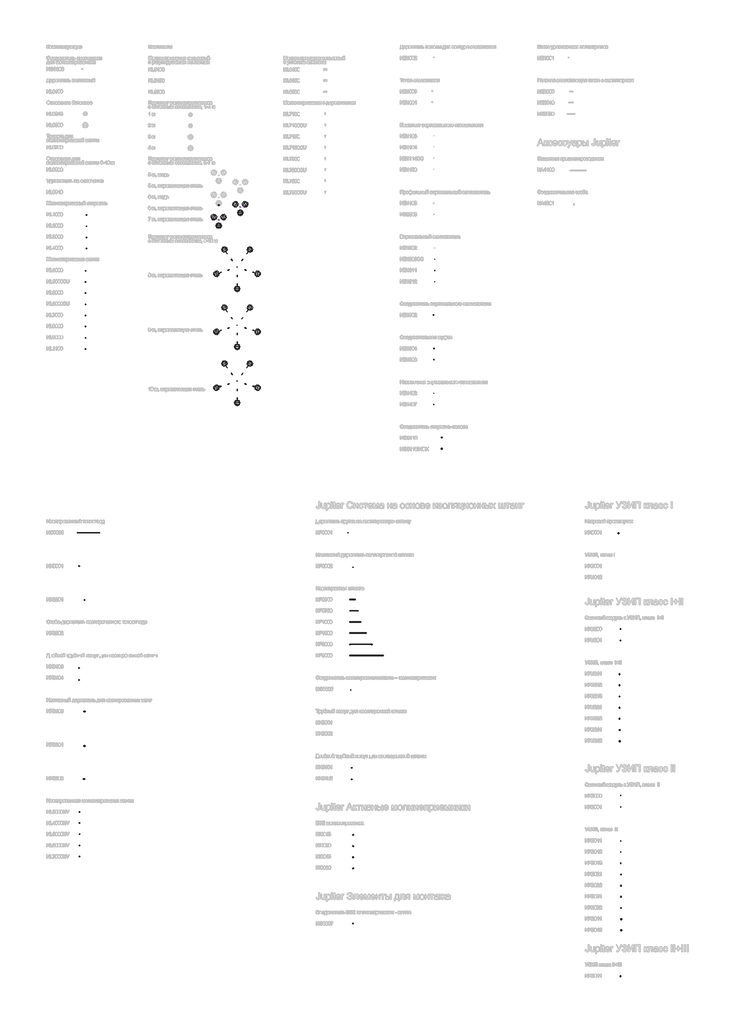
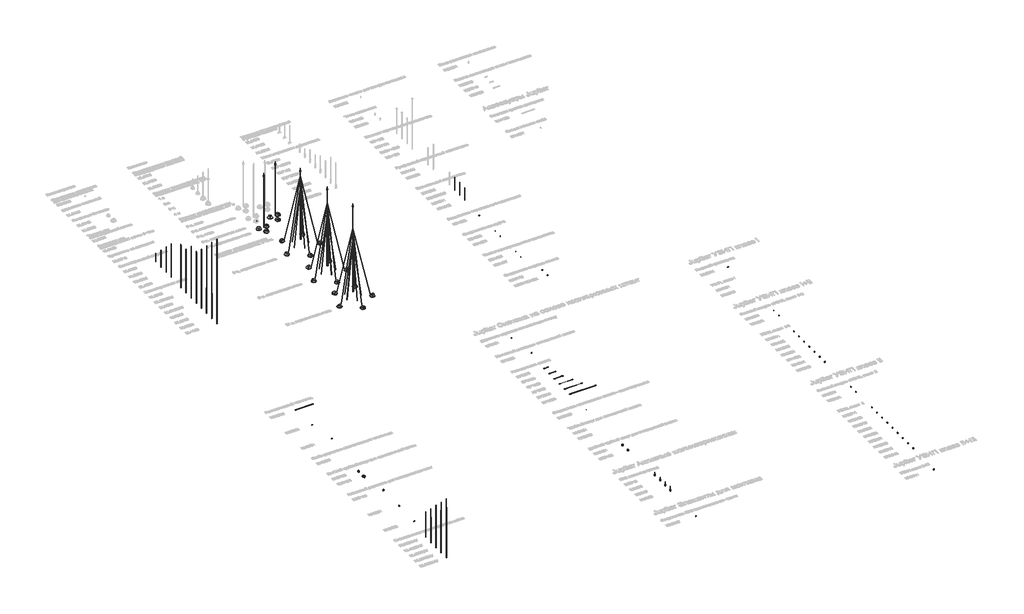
# One storey, part 1 of 124: 116 proxies, 1 duct fitting, 1 duct segment.
"""IFC4 building model written with IfcOpenShell, lengths in millimetres."""

from ifc_helpers import new_model, si_unit, point, frame, frame_2d, origin, place, context, project, spatial, circle_curve, trimmed, segment, composite_curve, outline, extrude, transform, mapped, element, save
from components import security_devices_05d823bf, security_devices_0aeedfa1, security_devices_a8f7f402, security_devices_c6e7fee2, security_devices_559b2867, security_devices_0043915d, security_devices_6ea39299, security_devices_825c0fe0, security_devices_16bc7795, security_devices_1e134b05, security_devices_2c1e61c4, security_devices_edb8f459, security_devices_3444e8e4, security_devices_97b46f4d, security_devices_ea8fab0d, security_devices_bb690567, security_devices_41d0c0da, security_devices_88e37f12, security_devices_a315e19a, security_devices_9b5765ba, security_devices_b758fb0a, security_devices_906a7fbe, security_devices_8f3e5d56, security_devices_b226a513, security_devices_eeaf92e3, security_devices_a4980a0c, security_devices_d693c095, security_devices_0e7c5410, security_devices_e70f869e, security_devices_90d430a2, security_devices_a29eabd2, security_devices_7bfe0d6e, security_devices_0df7b225, security_devices_4151b5aa, security_devices_ee13a812, security_devices_3b14cfa0, security_devices_d66b258b, security_devices_bb59ca7d, security_devices_c9c6f2a6, security_devices_e6ee3e28, security_devices_08c832ad, security_devices_84849d59, security_devices_fc7a873b, security_devices_9e177451, security_devices_01c4e3ec, security_devices_d06509e6, security_devices_df28b7d4, security_devices_2842b777, nk2201_a44ecc95, nx0001_94aa2309, nx1200_8756095d, nx1211_2f3ccb29, nx1221_e5589962, nx1241_89681e73, nx1241_6f42e53b, nx2031_2e469d20, duct_fitting_a82781f4

model = new_model("IFC4")

# Units and contexts
model_context = context("Model", 3, world=origin())
ifc_project = project(units=[si_unit("LENGTHUNIT", "METRE", prefix="MILLI")], contexts=[model_context])

# Site, building, storey
site = spatial("IfcSite", under=ifc_project)
building = spatial("IfcBuilding", under=site)
storey = spatial("IfcBuildingStorey", under=building, Name="Этаж 01", Elevation=0.0)

# Proxies
placement = place(None, origin())
security_devices_shape = security_devices_05d823bf(model_context)
element("IfcBuildingElementProxy", 1, Name="КНС_ХомутДвойнойТрубныйДляИзолированнойМачты_DKC : NK3103_Нержавеющая сталь_D150", ObjectType="КНС_ХомутДвойнойТрубныйДляИзолированнойМачты_DKC : NK3103_Нержавеющая сталь_D150", at=placement, inside=storey, context=model_context, shape_type="MappedRepresentation", body=[
    mapped(security_devices_shape, transform((4173.0680129, -105467.272805, 0.0), x_axis=(1.0, 0.0, 0.0), y_axis=(0.0, 1.0, 0.0), z_axis=(0.0, 0.0, 1.0))),
])
security_devices_2_shape = security_devices_0aeedfa1(model_context)
element("IfcBuildingElementProxy", 2, Name="КНС_ХомутДвойнойТрубныйДляИзолированнойМачты_DKC : NK3104_Нержавеющая сталь_D500", ObjectType="КНС_ХомутДвойнойТрубныйДляИзолированнойМачты_DKC : NK3104_Нержавеющая сталь_D500", at=placement, inside=storey, context=model_context, shape_type="MappedRepresentation", body=[
    mapped(security_devices_2_shape, transform((4173.0680129, -106467.272805, 0.0), x_axis=(1.0, 0.0, 0.0), y_axis=(0.0, 1.0, 0.0), z_axis=(0.0, 0.0, 1.0))),
])
security_devices_3_shape = security_devices_a8f7f402(model_context)
element("IfcBuildingElementProxy", 3, Name="КНС_ДержательНастенныйДляИзолированныхМачт_DKC : NK3105_Горячеоцинкованная сталь", ObjectType="КНС_ДержательНастенныйДляИзолированныхМачт_DKC : NK3105_Горячеоцинкованная сталь", at=placement, inside=storey, context=model_context, shape_type="MappedRepresentation", body=[
    mapped(security_devices_3_shape, transform((4655.8541382, -109434.5814792, 0.0), x_axis=(1.0, 0.0, 0.0), y_axis=(0.0, 1.0, 0.0), z_axis=(0.0, 0.0, 1.0))),
])
security_devices_4_shape = security_devices_c6e7fee2(model_context)
element("IfcBuildingElementProxy", 4, Name="КНС_КольцоСоединительноеДляИзолированногоТокоотвода_DKC : NK3201_Алюминий", ObjectType="КНС_КольцоСоединительноеДляИзолированногоТокоотвода_DKC : NK3201_Алюминий", at=placement, inside=storey, context=model_context, shape_type="MappedRepresentation", body=[
    mapped(security_devices_4_shape, transform((4655.8541382, -112514.5814792, 0.0), x_axis=(1.0, 0.0, 0.0), y_axis=(0.0, 1.0, 0.0), z_axis=(0.0, 0.0, 1.0))),
])
security_devices_5_shape = security_devices_559b2867(model_context)
element("IfcBuildingElementProxy", 5, Name="КНС_ДержательНаружногоИзолированногоТокоотводаДляИзолированнойМолниеприемнойМачты_DKC : NK3202_Нержавеющая сталь", ObjectType="КНС_ДержательНаружногоИзолированногоТокоотводаДляИзолированнойМолниеприемнойМачты_DKC : NK3202_Нержавеющая сталь", at=placement, inside=storey, context=model_context, shape_type="MappedRepresentation", body=[
    mapped(security_devices_5_shape, transform((4610.705612, -115478.5314635, 0.0), x_axis=(1.0, 0.0, 0.0), y_axis=(0.0, 1.0, 0.0), z_axis=(0.0, 0.0, 1.0))),
])
security_devices_6_shape = security_devices_0043915d(model_context)
element("IfcBuildingElementProxy", 6, Name="КНС_МачтаИзолированнаяМолниеприемная_DKC : NL3000HV_Нержавеющая сталь_3м", ObjectType="КНС_МачтаИзолированнаяМолниеприемная_DKC : NL3000HV_Нержавеющая сталь_3м", at=placement, inside=storey, context=model_context, shape_type="MappedRepresentation", body=[
    mapped(security_devices_6_shape, transform((4220.3947261, -118408.0491719, 0.0), x_axis=(1.0, 0.0, 0.0), y_axis=(0.0, 1.0, 0.0), z_axis=(0.0, 0.0, 1.0))),
])
security_devices_7_shape = security_devices_6ea39299(model_context)
element("IfcBuildingElementProxy", 7, Name="КНС_МачтаИзолированнаяМолниеприемная_DKC : NL4000HV_Нержавеющая сталь_4м", ObjectType="КНС_МачтаИзолированнаяМолниеприемная_DKC : NL4000HV_Нержавеющая сталь_4м", at=placement, inside=storey, context=model_context, shape_type="MappedRepresentation", body=[
    mapped(security_devices_7_shape, transform((4220.3947261, -119408.0491719, 0.0), x_axis=(1.0, 0.0, 0.0), y_axis=(0.0, 1.0, 0.0), z_axis=(0.0, 0.0, 1.0))),
])
security_devices_8_shape = security_devices_825c0fe0(model_context)
element("IfcBuildingElementProxy", 8, Name="КНС_МачтаИзолированнаяМолниеприемная_DKC : NL5000HV_Нержавеющая сталь_5м", ObjectType="КНС_МачтаИзолированнаяМолниеприемная_DKC : NL5000HV_Нержавеющая сталь_5м", at=placement, inside=storey, context=model_context, shape_type="MappedRepresentation", body=[
    mapped(security_devices_8_shape, transform((4220.3947261, -120408.0491719, 0.0), x_axis=(1.0, 0.0, 0.0), y_axis=(0.0, 1.0, 0.0), z_axis=(0.0, 0.0, 1.0))),
])
security_devices_9_shape = security_devices_16bc7795(model_context)
element("IfcBuildingElementProxy", 9, Name="КНС_МачтаИзолированнаяМолниеприемная_DKC : NL6000HV_Нержавеющая сталь_6м", ObjectType="КНС_МачтаИзолированнаяМолниеприемная_DKC : NL6000HV_Нержавеющая сталь_6м", at=placement, inside=storey, context=model_context, shape_type="MappedRepresentation", body=[
    mapped(security_devices_9_shape, transform((4220.3947261, -121408.0491719, 0.0), x_axis=(1.0, 0.0, 0.0), y_axis=(0.0, 1.0, 0.0), z_axis=(0.0, 0.0, 1.0))),
])
security_devices_10_shape = security_devices_1e134b05(model_context)
element("IfcBuildingElementProxy", 10, Name="КНС_МачтаИзолированнаяМолниеприемная_DKC : NL7000HV_Нержавеющая сталь_7м", ObjectType="КНС_МачтаИзолированнаяМолниеприемная_DKC : NL7000HV_Нержавеющая сталь_7м", at=placement, inside=storey, context=model_context, shape_type="MappedRepresentation", body=[
    mapped(security_devices_10_shape, transform((4220.3947261, -122408.0491719, 0.0), x_axis=(1.0, 0.0, 0.0), y_axis=(0.0, 1.0, 0.0), z_axis=(0.0, 0.0, 1.0))),
])
security_devices_11_shape = security_devices_2c1e61c4(model_context)
element("IfcBuildingElementProxy", 11, Name="КНС_ДержательПруткаНаИзоляционнуюШтангу_DKC : NF0001_Гальванически оцинкованнная сталь", ObjectType="КНС_ДержательПруткаНаИзоляционнуюШтангу_DKC : NF0001_Гальванически оцинкованнная сталь", at=placement, inside=storey, context=model_context, shape_type="MappedRepresentation", body=[
    mapped(security_devices_11_shape, transform((28262.7660106, -93430.5049317, 0.0), x_axis=(1.0, 0.0, 0.0), y_axis=(0.0, 1.0, 0.0), z_axis=(0.0, 0.0, 1.0))),
])
security_devices_12_shape = security_devices_edb8f459(model_context)
element("IfcBuildingElementProxy", 12, Name="КНС_ДержательНастенныйИзоляционнойШтанги_DKC : NF0002_Гальванически оцинкованнная сталь", ObjectType="КНС_ДержательНастенныйИзоляционнойШтанги_DKC : NF0002_Гальванически оцинкованнная сталь", at=placement, inside=storey, context=model_context, shape_type="MappedRepresentation", body=[
    mapped(security_devices_12_shape, transform((28691.4894697, -96514.5814792, 0.0), x_axis=(1.0, 0.0, 0.0), y_axis=(0.0, 1.0, 0.0), z_axis=(0.0, 0.0, 1.0))),
])
security_devices_13_shape = security_devices_3444e8e4(model_context)
element("IfcBuildingElementProxy", 13, Name="КНС_ШтангаИзоляционная_DKC : NF0500_Стеклопластик_500 мм", ObjectType="КНС_ШтангаИзоляционная_DKC : NF0500_Стеклопластик_500 мм", at=placement, inside=storey, context=model_context, shape_type="MappedRepresentation", body=[
    mapped(security_devices_13_shape, transform((28400.0, -99414.5814792, 0.0), x_axis=(0.0, -1.0, 0.0), y_axis=(1.0, 0.0, 0.0), z_axis=(0.0, 0.0, 1.0))),
])
security_devices_14_shape = security_devices_97b46f4d(model_context)
element("IfcBuildingElementProxy", 14, Name="КНС_ШтангаИзоляционная_DKC : NF0750_Стеклопластик_750 мм", ObjectType="КНС_ШтангаИзоляционная_DKC : NF0750_Стеклопластик_750 мм", at=placement, inside=storey, context=model_context, shape_type="MappedRepresentation", body=[
    mapped(security_devices_14_shape, transform((28400.0, -100414.5814792, 0.0), x_axis=(0.0, -1.0, 0.0), y_axis=(1.0, 0.0, 0.0), z_axis=(0.0, 0.0, 1.0))),
])
security_devices_15_shape = security_devices_ea8fab0d(model_context)
element("IfcBuildingElementProxy", 15, Name="КНС_ШтангаИзоляционная_DKC : NF1000_Стеклопластик_1000 мм", ObjectType="КНС_ШтангаИзоляционная_DKC : NF1000_Стеклопластик_1000 мм", at=placement, inside=storey, context=model_context, shape_type="MappedRepresentation", body=[
    mapped(security_devices_15_shape, transform((28400.0, -101414.5814792, 0.0), x_axis=(0.0, -1.0, 0.0), y_axis=(1.0, 0.0, 0.0), z_axis=(0.0, 0.0, 1.0))),
])
security_devices_16_shape = security_devices_bb690567(model_context)
element("IfcBuildingElementProxy", 16, Name="КНС_ШтангаИзоляционная_DKC : NF1500_Стеклопластик_1500 мм", ObjectType="КНС_ШтангаИзоляционная_DKC : NF1500_Стеклопластик_1500 мм", at=placement, inside=storey, context=model_context, shape_type="MappedRepresentation", body=[
    mapped(security_devices_16_shape, transform((28400.0, -102414.5814792, 0.0), x_axis=(0.0, -1.0, 0.0), y_axis=(1.0, 0.0, 0.0), z_axis=(0.0, 0.0, 1.0))),
])
security_devices_17_shape = security_devices_41d0c0da(model_context)
element("IfcBuildingElementProxy", 17, Name="КНС_ШтангаИзоляционная_DKC : NF2000_Стеклопластик_2000 мм", ObjectType="КНС_ШтангаИзоляционная_DKC : NF2000_Стеклопластик_2000 мм", at=placement, inside=storey, context=model_context, shape_type="MappedRepresentation", body=[
    mapped(security_devices_17_shape, transform((28400.0, -103414.5814792, 0.0), x_axis=(0.0, -1.0, 0.0), y_axis=(1.0, 0.0, 0.0), z_axis=(0.0, 0.0, 1.0))),
])
security_devices_18_shape = security_devices_88e37f12(model_context)
element("IfcBuildingElementProxy", 18, Name="КНС_ШтангаИзоляционная_DKC : NF3000_Стеклопластик_3000 мм", ObjectType="КНС_ШтангаИзоляционная_DKC : NF3000_Стеклопластик_3000 мм", at=placement, inside=storey, context=model_context, shape_type="MappedRepresentation", body=[
    mapped(security_devices_18_shape, transform((28400.0, -104414.5814792, 0.0), x_axis=(0.0, -1.0, 0.0), y_axis=(1.0, 0.0, 0.0), z_axis=(0.0, 0.0, 1.0))),
])
security_devices_19_shape = security_devices_a315e19a(model_context)
element("IfcBuildingElementProxy", 19, Name="КНС_СоединительИзоляционнаяШтангаМолниеприемник_DKC : NG6608_Гальванически оцинкованнная сталь", ObjectType="КНС_СоединительИзоляционнаяШтангаМолниеприемник_DKC : NG6608_Гальванически оцинкованнная сталь", at=placement, inside=storey, context=model_context, shape_type="MappedRepresentation", body=[
    mapped(security_devices_19_shape, transform((28502.0105291, -107517.7042509, 0.0), x_axis=(1.0, 0.0, 0.0), y_axis=(0.0, 1.0, 0.0), z_axis=(0.0, 0.0, 1.0))),
])
security_devices_20_shape = security_devices_9b5765ba(model_context)
element("IfcBuildingElementProxy", 20, Name="КНС_ХомутДвойнойТрубныйДляИзолированнойШтанги_DKC : NK3101_Нержавеющая сталь_D150", ObjectType="КНС_ХомутДвойнойТрубныйДляИзолированнойШтанги_DKC : NK3101_Нержавеющая сталь_D150", at=placement, inside=storey, context=model_context, shape_type="MappedRepresentation", body=[
    mapped(security_devices_20_shape, transform((28579.0568623, -114418.4054196, 0.0), x_axis=(1.0, 0.0, 0.0), y_axis=(0.0, 1.0, 0.0), z_axis=(0.0, 0.0, 1.0))),
])
security_devices_21_shape = security_devices_b758fb0a(model_context)
element("IfcBuildingElementProxy", 21, Name="КНС_ESEМолниеприемник_DKC : NI0015_Нержавеющая сталь V4A", ObjectType="КНС_ESEМолниеприемник_DKC : NI0015_Нержавеющая сталь V4A", at=placement, inside=storey, context=model_context, shape_type="MappedRepresentation", body=[
    mapped(security_devices_21_shape, transform((28700.0, -120471.9803855, 0.0), x_axis=(1.0, 0.0, 0.0), y_axis=(0.0, 1.0, 0.0), z_axis=(0.0, 0.0, 1.0))),
])
element("IfcBuildingElementProxy", 22, Name="КНС_ESEМолниеприемник_DKC : NI0015_Нержавеющая сталь V4A", ObjectType="КНС_ESEМолниеприемник_DKC : NI0015_Нержавеющая сталь V4A", at=placement, inside=storey, context=model_context, shape_type="MappedRepresentation", body=[
    mapped(security_devices_21_shape, transform((18320.0078062, -69656.4144833, 8802.0), x_axis=(1.0, 0.0, 0.0), y_axis=(0.0, 1.0, 0.0), z_axis=(0.0, 0.0, 1.0))),
])
element("IfcBuildingElementProxy", 23, Name="КНС_ESEМолниеприемник_DKC : NI0015_Нержавеющая сталь V4A", ObjectType="КНС_ESEМолниеприемник_DKC : NI0015_Нержавеющая сталь V4A", at=placement, inside=storey, context=model_context, shape_type="MappedRepresentation", body=[
    mapped(security_devices_21_shape, transform((18320.0078062, -74856.4144833, 9802.0), x_axis=(1.0, 0.0, 0.0), y_axis=(0.0, 1.0, 0.0), z_axis=(0.0, 0.0, 1.0))),
])
element("IfcBuildingElementProxy", 24, Name="КНС_ESEМолниеприемник_DKC : NI0015_Нержавеющая сталь V4A", ObjectType="КНС_ESEМолниеприемник_DKC : NI0015_Нержавеющая сталь V4A", at=placement, inside=storey, context=model_context, shape_type="MappedRepresentation", body=[
    mapped(security_devices_21_shape, transform((18320.0078062, -79856.4144833, 10802.0), x_axis=(1.0, 0.0, 0.0), y_axis=(0.0, 1.0, 0.0), z_axis=(0.0, 0.0, 1.0))),
])
element("IfcBuildingElementProxy", 25, Name="КНС_ESEМолниеприемник_DKC : NI0015_Нержавеющая сталь V4A", ObjectType="КНС_ESEМолниеприемник_DKC : NI0015_Нержавеющая сталь V4A", at=placement, inside=storey, context=model_context, shape_type="MappedRepresentation", body=[
    mapped(security_devices_21_shape, transform((18612.132508, -64283.8125551, 6229.993014), x_axis=(1.0, 0.0, 0.0), y_axis=(0.0, 1.0, 0.0), z_axis=(0.0, 0.0, 1.0))),
])
element("IfcBuildingElementProxy", 26, Name="КНС_ESEМолниеприемник_DKC : NI0015_Нержавеющая сталь V4A", ObjectType="КНС_ESEМолниеприемник_DKC : NI0015_Нержавеющая сталь V4A", at=placement, inside=storey, context=model_context, shape_type="MappedRepresentation", body=[
    mapped(security_devices_21_shape, transform((16677.9827012, -65433.5310744, 6229.993014), x_axis=(1.0, 0.0, 0.0), y_axis=(0.0, 1.0, 0.0), z_axis=(0.0, 0.0, 1.0))),
])
security_devices_22_shape = security_devices_906a7fbe(model_context)
element("IfcBuildingElementProxy", 27, Name="КНС_ESEМолниеприемник_DKC : NI0030_Нержавеющая сталь V4A", ObjectType="КНС_ESEМолниеприемник_DKC : NI0030_Нержавеющая сталь V4A", at=placement, inside=storey, context=model_context, shape_type="MappedRepresentation", body=[
    mapped(security_devices_22_shape, transform((28700.0, -121471.9803855, 0.0), x_axis=(1.0, 0.0, 0.0), y_axis=(0.0, 1.0, 0.0), z_axis=(0.0, 0.0, 1.0))),
])
security_devices_23_shape = security_devices_8f3e5d56(model_context)
element("IfcBuildingElementProxy", 28, Name="КНС_ESEМолниеприемник_DKC : NI0045_Нержавеющая сталь V4A", ObjectType="КНС_ESEМолниеприемник_DKC : NI0045_Нержавеющая сталь V4A", at=placement, inside=storey, context=model_context, shape_type="MappedRepresentation", body=[
    mapped(security_devices_23_shape, transform((28700.0, -122471.9803855, 0.0), x_axis=(1.0, 0.0, 0.0), y_axis=(0.0, 1.0, 0.0), z_axis=(0.0, 0.0, 1.0))),
])
security_devices_24_shape = security_devices_b226a513(model_context)
element("IfcBuildingElementProxy", 29, Name="КНС_ESEМолниеприемник_DKC : NI0060_Нержавеющая сталь V4A", ObjectType="КНС_ESEМолниеприемник_DKC : NI0060_Нержавеющая сталь V4A", at=placement, inside=storey, context=model_context, shape_type="MappedRepresentation", body=[
    mapped(security_devices_24_shape, transform((28700.0, -123471.9803855, 0.0), x_axis=(1.0, 0.0, 0.0), y_axis=(0.0, 1.0, 0.0), z_axis=(0.0, 0.0, 1.0))),
])
security_devices_25_shape = security_devices_eeaf92e3(model_context)
element("IfcBuildingElementProxy", 30, Name="КНС_СоединительESEМолниеприемникМачта_DKC : NG6607_Алюминий", ObjectType="КНС_СоединительESEМолниеприемникМачта_DKC : NG6607_Алюминий", at=placement, inside=storey, context=model_context, shape_type="MappedRepresentation", body=[
    mapped(security_devices_25_shape, transform((28700.0, -128414.5814792, 0.0), x_axis=(1.0, 0.0, 0.0), y_axis=(0.0, 1.0, 0.0), z_axis=(0.0, 0.0, 1.0))),
])
element("IfcBuildingElementProxy", 31, Name="КНС_СоединительESEМолниеприемникМачта_DKC : NG6607_Алюминий", ObjectType="КНС_СоединительESEМолниеприемникМачта_DKC : NG6607_Алюминий", at=placement, inside=storey, context=model_context, shape_type="MappedRepresentation", body=[
    mapped(security_devices_25_shape, transform((18320.0078062, -69656.4144833, 8802.0), x_axis=(1.0, 0.0, 0.0), y_axis=(0.0, 1.0, 0.0), z_axis=(0.0, 0.0, 1.0))),
])
element("IfcBuildingElementProxy", 32, Name="КНС_СоединительESEМолниеприемникМачта_DKC : NG6607_Алюминий", ObjectType="КНС_СоединительESEМолниеприемникМачта_DKC : NG6607_Алюминий", at=placement, inside=storey, context=model_context, shape_type="MappedRepresentation", body=[
    mapped(security_devices_25_shape, transform((18320.0078062, -74856.4144833, 9802.0), x_axis=(1.0, 0.0, 0.0), y_axis=(0.0, 1.0, 0.0), z_axis=(0.0, 0.0, 1.0))),
])
element("IfcBuildingElementProxy", 33, Name="КНС_СоединительESEМолниеприемникМачта_DKC : NG6607_Алюминий", ObjectType="КНС_СоединительESEМолниеприемникМачта_DKC : NG6607_Алюминий", at=placement, inside=storey, context=model_context, shape_type="MappedRepresentation", body=[
    mapped(security_devices_25_shape, transform((18320.0078062, -79856.4144833, 10802.0), x_axis=(1.0, 0.0, 0.0), y_axis=(0.0, 1.0, 0.0), z_axis=(0.0, 0.0, 1.0))),
])
element("IfcBuildingElementProxy", 34, Name="КНС_СоединительESEМолниеприемникМачта_DKC : NG6607_Алюминий", ObjectType="КНС_СоединительESEМолниеприемникМачта_DKC : NG6607_Алюминий", at=placement, inside=storey, context=model_context, shape_type="MappedRepresentation", body=[
    mapped(security_devices_25_shape, transform((18612.132508, -64283.8125551, 6229.993014), x_axis=(1.0, 0.0, 0.0), y_axis=(0.0, 1.0, 0.0), z_axis=(0.0, 0.0, 1.0))),
])
element("IfcBuildingElementProxy", 35, Name="КНС_СоединительESEМолниеприемникМачта_DKC : NG6607_Алюминий", ObjectType="КНС_СоединительESEМолниеприемникМачта_DKC : NG6607_Алюминий", at=placement, inside=storey, context=model_context, shape_type="MappedRepresentation", body=[
    mapped(security_devices_25_shape, transform((16677.9827012, -65433.5310744, 6229.993014), x_axis=(1.0, 0.0, 0.0), y_axis=(0.0, 1.0, 0.0), z_axis=(0.0, 0.0, 1.0))),
])
element("IfcBuildingElementProxy", 36, Name="КНС_ХомутДвойнойТрубныйДляИзолированнойШтанги_DKC : NK3102_Нержавеющая сталь_D500", ObjectType="КНС_ХомутДвойнойТрубныйДляИзолированнойШтанги_DKC : NK3102_Нержавеющая сталь_D500", at=placement, inside=storey, context=model_context, shape_type="MappedRepresentation", body=[
    mapped(security_devices_20_shape, transform((28579.0568623, -115418.4054196, 0.0), x_axis=(1.0, 0.0, 0.0), y_axis=(0.0, 1.0, 0.0), z_axis=(0.0, 0.0, 1.0))),
])
security_devices_26_shape = security_devices_a4980a0c(model_context)
element("IfcBuildingElementProxy", 37, Name="КНС_МачтаМолниеприемная_DKC : NL6000_СтальНержавеющая_6м", ObjectType="КНС_МачтаМолниеприемная_DKC : NL6000_СтальНержавеющая_6м", at=placement, inside=storey, context=model_context, shape_type="MappedRepresentation", body=[
    mapped(security_devices_26_shape, transform((18612.131238, -64283.8134373, 229.993014), x_axis=(1.0, 0.0, 0.0), y_axis=(0.0, 1.0, 0.0), z_axis=(0.0, 0.0, 1.0))),
])
element("IfcBuildingElementProxy", 38, Name="КНС_МачтаМолниеприемная_DKC : NL7000_СтальНержавеющая_7м", ObjectType="КНС_МачтаМолниеприемная_DKC : NL7000_СтальНержавеющая_7м", at=placement, inside=storey, context=model_context, shape_type="MappedRepresentation", body=[
    mapped(security_devices_26_shape, transform((16677.9814311, -65433.5319567, 229.993014), x_axis=(1.0, 0.0, 0.0), y_axis=(0.0, 1.0, 0.0), z_axis=(0.0, 0.0, 1.0))),
])
security_devices_27_shape = security_devices_d693c095(model_context)
element("IfcBuildingElementProxy", 39, Name="КНС_ОсновниеБетонное_DKC : NL0500_Бетон_40кг", ObjectType="КНС_ОсновниеБетонное_DKC : NL0500_Бетон_40кг", at=placement, inside=storey, context=model_context, shape_type="MappedRepresentation", body=[
    mapped(security_devices_27_shape, transform((18612.132508, -64783.8121369, 0.0), x_axis=(-1.0, 0.0, 0.0), y_axis=(0.0, -1.0, 0.0), z_axis=(0.0, 0.0, 1.0))),
])
element("IfcBuildingElementProxy", 40, Name="КНС_ОсновниеБетонное_DKC : NL0500_Бетон_40кг", ObjectType="КНС_ОсновниеБетонное_DKC : NL0500_Бетон_40кг", at=placement, inside=storey, context=model_context, shape_type="MappedRepresentation", body=[
    mapped(security_devices_27_shape, transform((18179.1228373, -64033.8130506, 0.0), x_axis=(0.5000000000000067, 0.8660254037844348, 0.0), y_axis=(-0.8660254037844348, 0.5000000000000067, 0.0), z_axis=(0.0, 0.0, 1.0))),
])
element("IfcBuildingElementProxy", 41, Name="КНС_ОсновниеБетонное_DKC : NL0500_Бетон_40кг", ObjectType="КНС_ОсновниеБетонное_DKC : NL0500_Бетон_40кг", at=placement, inside=storey, context=model_context, shape_type="MappedRepresentation", body=[
    mapped(security_devices_27_shape, transform((19045.1421788, -64033.8112232, 0.0), x_axis=(0.49999999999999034, -0.8660254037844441, 0.0), y_axis=(0.8660254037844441, 0.49999999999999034, 0.0), z_axis=(0.0, 0.0, 1.0))),
])
element("IfcBuildingElementProxy", 42, Name="КНС_ОсновниеБетонное_DKC : NL0500_Бетон_40кг", ObjectType="КНС_ОсновниеБетонное_DKC : NL0500_Бетон_40кг", at=placement, inside=storey, context=model_context, shape_type="MappedRepresentation", body=[
    mapped(security_devices_27_shape, transform((16677.9827012, -65933.5306563, 0.0), x_axis=(-1.0, 0.0, 0.0), y_axis=(0.0, -1.0, 0.0), z_axis=(0.0, 0.0, 1.0))),
])
element("IfcBuildingElementProxy", 43, Name="КНС_ОсновниеБетонное_DKC : NL0500_Бетон_40кг", ObjectType="КНС_ОсновниеБетонное_DKC : NL0500_Бетон_40кг", at=placement, inside=storey, context=model_context, shape_type="MappedRepresentation", body=[
    mapped(security_devices_27_shape, transform((16244.9730304, -65183.53157, 0.0), x_axis=(0.5000000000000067, 0.8660254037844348, 0.0), y_axis=(-0.8660254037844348, 0.5000000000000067, 0.0), z_axis=(0.0, 0.0, 1.0))),
])
element("IfcBuildingElementProxy", 44, Name="КНС_ОсновниеБетонное_DKC : NL0500_Бетон_40кг", ObjectType="КНС_ОсновниеБетонное_DKC : NL0500_Бетон_40кг", at=placement, inside=storey, context=model_context, shape_type="MappedRepresentation", body=[
    mapped(security_devices_27_shape, transform((17110.9923719, -65183.5297425, 0.0), x_axis=(0.49999999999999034, -0.8660254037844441, 0.0), y_axis=(0.8660254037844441, 0.49999999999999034, 0.0), z_axis=(0.0, 0.0, 1.0))),
])
element("IfcBuildingElementProxy", 45, Name="КНС_ОсновниеБетонное_DKC : NL0500_Бетон_40кг", ObjectType="КНС_ОсновниеБетонное_DKC : NL0500_Бетон_40кг", at=placement, inside=storey, context=model_context, shape_type="MappedRepresentation", body=[
    mapped(security_devices_27_shape, transform((18320.0078062, -71598.4144833, 0.0), x_axis=(-1.0, 0.0, 0.0), y_axis=(0.0, -1.0, 0.0), z_axis=(0.0, 0.0, 1.0))),
])
element("IfcBuildingElementProxy", 46, Name="КНС_ОсновниеБетонное_DKC : NL0500_Бетон_40кг", ObjectType="КНС_ОсновниеБетонное_DKC : NL0500_Бетон_40кг", at=placement, inside=storey, context=model_context, shape_type="MappedRepresentation", body=[
    mapped(security_devices_27_shape, transform((19461.4867662, -68085.3034802, 0.0), x_axis=(0.8090169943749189, -0.5877852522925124, 0.0), y_axis=(0.5877852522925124, 0.8090169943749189, 0.0), z_axis=(0.0, 0.0, 1.0))),
])
element("IfcBuildingElementProxy", 47, Name="КНС_ОсновниеБетонное_DKC : NL0500_Бетон_40кг", ObjectType="КНС_ОсновниеБетонное_DKC : NL0500_Бетон_40кг", at=placement, inside=storey, context=model_context, shape_type="MappedRepresentation", body=[
    mapped(security_devices_27_shape, transform((16473.0560516, -70256.5254863, 0.0), x_axis=(-0.30901699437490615, 0.9510565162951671, 0.0), y_axis=(-0.9510565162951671, -0.30901699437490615, 0.0), z_axis=(0.0, 0.0, 1.0))),
])
element("IfcBuildingElementProxy", 48, Name="КНС_ОсновниеБетонное_DKC : NL0500_Бетон_40кг", ObjectType="КНС_ОсновниеБетонное_DKC : NL0500_Бетон_40кг", at=placement, inside=storey, context=model_context, shape_type="MappedRepresentation", body=[
    mapped(security_devices_27_shape, transform((20166.9567448, -70256.5263358, 0.0), x_axis=(-0.30901699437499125, -0.9510565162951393, 0.0), y_axis=(0.9510565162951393, -0.30901699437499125, 0.0), z_axis=(0.0, 0.0, 1.0))),
])
element("IfcBuildingElementProxy", 49, Name="КНС_ОсновниеБетонное_DKC : NL0500_Бетон_40кг", ObjectType="КНС_ОсновниеБетонное_DKC : NL0500_Бетон_40кг", at=placement, inside=storey, context=model_context, shape_type="MappedRepresentation", body=[
    mapped(security_devices_27_shape, transform((17178.5316239, -68085.3044482, 0.0), x_axis=(0.8090169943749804, 0.5877852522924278, 0.0), y_axis=(-0.5877852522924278, 0.8090169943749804, 0.0), z_axis=(0.0, 0.0, 1.0))),
])
element("IfcBuildingElementProxy", 50, Name="КНС_ОсновниеБетонное_DKC : NL0500_Бетон_40кг", ObjectType="КНС_ОсновниеБетонное_DKC : NL0500_Бетон_40кг", at=placement, inside=storey, context=model_context, shape_type="MappedRepresentation", body=[
    mapped(security_devices_27_shape, transform((18320.0078062, -76798.4144833, 0.0), x_axis=(-1.0, 0.0, 0.0), y_axis=(0.0, -1.0, 0.0), z_axis=(0.0, 0.0, 1.0))),
])
element("IfcBuildingElementProxy", 51, Name="КНС_ОсновниеБетонное_DKC : NL0500_Бетон_40кг", ObjectType="КНС_ОсновниеБетонное_DKC : NL0500_Бетон_40кг", at=placement, inside=storey, context=model_context, shape_type="MappedRepresentation", body=[
    mapped(security_devices_27_shape, transform((19461.4867662, -73285.3034802, 0.0), x_axis=(0.8090169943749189, -0.5877852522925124, 0.0), y_axis=(0.5877852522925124, 0.8090169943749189, 0.0), z_axis=(0.0, 0.0, 1.0))),
])
element("IfcBuildingElementProxy", 52, Name="КНС_ОсновниеБетонное_DKC : NL0500_Бетон_40кг", ObjectType="КНС_ОсновниеБетонное_DKC : NL0500_Бетон_40кг", at=placement, inside=storey, context=model_context, shape_type="MappedRepresentation", body=[
    mapped(security_devices_27_shape, transform((16473.0560516, -75456.5254863, 0.0), x_axis=(-0.30901699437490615, 0.9510565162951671, 0.0), y_axis=(-0.9510565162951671, -0.30901699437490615, 0.0), z_axis=(0.0, 0.0, 1.0))),
])
element("IfcBuildingElementProxy", 53, Name="КНС_ОсновниеБетонное_DKC : NL0500_Бетон_40кг", ObjectType="КНС_ОсновниеБетонное_DKC : NL0500_Бетон_40кг", at=placement, inside=storey, context=model_context, shape_type="MappedRepresentation", body=[
    mapped(security_devices_27_shape, transform((20166.9567448, -75456.5263358, 0.0), x_axis=(-0.30901699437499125, -0.9510565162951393, 0.0), y_axis=(0.9510565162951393, -0.30901699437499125, 0.0), z_axis=(0.0, 0.0, 1.0))),
])
element("IfcBuildingElementProxy", 54, Name="КНС_ОсновниеБетонное_DKC : NL0500_Бетон_40кг", ObjectType="КНС_ОсновниеБетонное_DKC : NL0500_Бетон_40кг", at=placement, inside=storey, context=model_context, shape_type="MappedRepresentation", body=[
    mapped(security_devices_27_shape, transform((17178.5316239, -73285.3044482, 0.0), x_axis=(0.8090169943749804, 0.5877852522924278, 0.0), y_axis=(-0.5877852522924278, 0.8090169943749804, 0.0), z_axis=(0.0, 0.0, 1.0))),
])
element("IfcBuildingElementProxy", 55, Name="КНС_ОсновниеБетонное_DKC : NL0500_Бетон_40кг", ObjectType="КНС_ОсновниеБетонное_DKC : NL0500_Бетон_40кг", at=placement, inside=storey, context=model_context, shape_type="MappedRepresentation", body=[
    mapped(security_devices_27_shape, transform((18320.0078062, -81798.4144833, 0.0), x_axis=(-1.0, 0.0, 0.0), y_axis=(0.0, -1.0, 0.0), z_axis=(0.0, 0.0, 1.0))),
])
element("IfcBuildingElementProxy", 56, Name="КНС_ОсновниеБетонное_DKC : NL0500_Бетон_40кг", ObjectType="КНС_ОсновниеБетонное_DKC : NL0500_Бетон_40кг", at=placement, inside=storey, context=model_context, shape_type="MappedRepresentation", body=[
    mapped(security_devices_27_shape, transform((19461.4867662, -78285.3034802, 0.0), x_axis=(0.8090169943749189, -0.5877852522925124, 0.0), y_axis=(0.5877852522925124, 0.8090169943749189, 0.0), z_axis=(0.0, 0.0, 1.0))),
])
element("IfcBuildingElementProxy", 57, Name="КНС_ОсновниеБетонное_DKC : NL0500_Бетон_40кг", ObjectType="КНС_ОсновниеБетонное_DKC : NL0500_Бетон_40кг", at=placement, inside=storey, context=model_context, shape_type="MappedRepresentation", body=[
    mapped(security_devices_27_shape, transform((16473.0560516, -80456.5254863, 0.0), x_axis=(-0.30901699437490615, 0.9510565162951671, 0.0), y_axis=(-0.9510565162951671, -0.30901699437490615, 0.0), z_axis=(0.0, 0.0, 1.0))),
])
element("IfcBuildingElementProxy", 58, Name="КНС_ОсновниеБетонное_DKC : NL0500_Бетон_40кг", ObjectType="КНС_ОсновниеБетонное_DKC : NL0500_Бетон_40кг", at=placement, inside=storey, context=model_context, shape_type="MappedRepresentation", body=[
    mapped(security_devices_27_shape, transform((20166.9567448, -80456.5263358, 0.0), x_axis=(-0.30901699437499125, -0.9510565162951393, 0.0), y_axis=(0.9510565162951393, -0.30901699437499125, 0.0), z_axis=(0.0, 0.0, 1.0))),
])
element("IfcBuildingElementProxy", 59, Name="КНС_ОсновниеБетонное_DKC : NL0500_Бетон_40кг", ObjectType="КНС_ОсновниеБетонное_DKC : NL0500_Бетон_40кг", at=placement, inside=storey, context=model_context, shape_type="MappedRepresentation", body=[
    mapped(security_devices_27_shape, transform((17178.5316239, -78285.3044482, 0.0), x_axis=(0.8090169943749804, 0.5877852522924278, 0.0), y_axis=(-0.5877852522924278, 0.8090169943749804, 0.0), z_axis=(0.0, 0.0, 1.0))),
])
security_devices_28_shape = security_devices_0e7c5410(model_context)
element("IfcBuildingElementProxy", 60, Name="КНС_СоединительПроводникаДляМолниеприемника_DKC : NG6606_Горячеоцинкованная сталь", ObjectType="КНС_СоединительПроводникаДляМолниеприемника_DKC : NG6606_Горячеоцинкованная сталь", at=placement, inside=storey, context=model_context, shape_type="MappedRepresentation", body=[
    mapped(security_devices_28_shape, transform((16677.9827012, -64103.5306563, 192.5), x_axis=(1.0, 0.0, 0.0), y_axis=(0.0, 1.0, 0.0), z_axis=(0.0, 0.0, 1.0))),
])
element("IfcBuildingElementProxy", 61, Name="КНС_СоединительПроводникаДляМолниеприемника_DKC : NG6606_Горячеоцинкованная сталь", ObjectType="КНС_СоединительПроводникаДляМолниеприемника_DKC : NG6606_Горячеоцинкованная сталь", at=placement, inside=storey, context=model_context, shape_type="MappedRepresentation", body=[
    mapped(security_devices_28_shape, transform((18612.132508, -64953.8121369, 192.5), x_axis=(1.0, 0.0, 0.0), y_axis=(0.0, 1.0, 0.0), z_axis=(0.0, 0.0, 1.0))),
])
element("IfcBuildingElementProxy", 62, Name="КНС_СоединительПроводникаДляМолниеприемника_DKC : NG6606_Горячеоцинкованная сталь", ObjectType="КНС_СоединительПроводникаДляМолниеприемника_DKC : NG6606_Горячеоцинкованная сталь", at=placement, inside=storey, context=model_context, shape_type="MappedRepresentation", body=[
    mapped(security_devices_28_shape, transform((16677.9827012, -66103.5306563, 192.5), x_axis=(1.0, 0.0, 0.0), y_axis=(0.0, 1.0, 0.0), z_axis=(0.0, 0.0, 1.0))),
])
element("IfcBuildingElementProxy", 63, Name="КНС_СоединительПроводникаДляМолниеприемника_DKC : NG6606_Горячеоцинкованная сталь", ObjectType="КНС_СоединительПроводникаДляМолниеприемника_DKC : NG6606_Горячеоцинкованная сталь", at=placement, inside=storey, context=model_context, shape_type="MappedRepresentation", body=[
    mapped(security_devices_28_shape, transform((18320.0078062, -71768.4144833, 192.5), x_axis=(1.0, 0.0, 0.0), y_axis=(0.0, 1.0, 0.0), z_axis=(0.0, 0.0, 1.0))),
])
element("IfcBuildingElementProxy", 64, Name="КНС_СоединительПроводникаДляМолниеприемника_DKC : NG6606_Горячеоцинкованная сталь", ObjectType="КНС_СоединительПроводникаДляМолниеприемника_DKC : NG6606_Горячеоцинкованная сталь", at=placement, inside=storey, context=model_context, shape_type="MappedRepresentation", body=[
    mapped(security_devices_28_shape, transform((18320.0078062, -76968.4144833, 192.5), x_axis=(1.0, 0.0, 0.0), y_axis=(0.0, 1.0, 0.0), z_axis=(0.0, 0.0, 1.0))),
])
element("IfcBuildingElementProxy", 65, Name="КНС_СоединительПроводникаДляМолниеприемника_DKC : NG6606_Горячеоцинкованная сталь", ObjectType="КНС_СоединительПроводникаДляМолниеприемника_DKC : NG6606_Горячеоцинкованная сталь", at=placement, inside=storey, context=model_context, shape_type="MappedRepresentation", body=[
    mapped(security_devices_28_shape, transform((18320.0078062, -81968.4144833, 192.5), x_axis=(1.0, 0.0, 0.0), y_axis=(0.0, 1.0, 0.0), z_axis=(0.0, 0.0, 1.0))),
])
security_devices_29_shape = security_devices_e70f869e(model_context)
element("IfcBuildingElementProxy", 66, Name="КНС_СтерженьМолниеприемный_DKC : NL1000_Алюминий_1м", ObjectType="КНС_СтерженьМолниеприемный_DKC : NL1000_Алюминий_1м", at=placement, inside=storey, context=model_context, shape_type="MappedRepresentation", body=[
    mapped(security_devices_29_shape, transform((4841.1542732, -64988.3071169, 0.0), x_axis=(1.0, 0.0, 0.0), y_axis=(0.0, 1.0, 0.0), z_axis=(0.0, 0.0, 1.0))),
])
security_devices_30_shape = security_devices_90d430a2(model_context)
element("IfcBuildingElementProxy", 67, Name="КНС_СтерженьМолниеприемный_DKC : NL2000_Алюминий_2м", ObjectType="КНС_СтерженьМолниеприемный_DKC : NL2000_Алюминий_2м", at=placement, inside=storey, context=model_context, shape_type="MappedRepresentation", body=[
    mapped(security_devices_30_shape, transform((4841.1542732, -65988.3071169, 0.0), x_axis=(1.0, 0.0, 0.0), y_axis=(0.0, 1.0, 0.0), z_axis=(0.0, 0.0, 1.0))),
])
security_devices_31_shape = security_devices_a29eabd2(model_context)
element("IfcBuildingElementProxy", 68, Name="КНС_СтерженьМолниеприемный_DKC : NL3000_Алюминий_3м", ObjectType="КНС_СтерженьМолниеприемный_DKC : NL3000_Алюминий_3м", at=placement, inside=storey, context=model_context, shape_type="MappedRepresentation", body=[
    mapped(security_devices_31_shape, transform((4841.1542732, -66988.3071169, 0.0), x_axis=(1.0, 0.0, 0.0), y_axis=(0.0, 1.0, 0.0), z_axis=(0.0, 0.0, 1.0))),
])
security_devices_32_shape = security_devices_7bfe0d6e(model_context)
element("IfcBuildingElementProxy", 69, Name="КНС_СтерженьМолниеприемный_DKC : NL4000_Алюминий_4м", ObjectType="КНС_СтерженьМолниеприемный_DKC : NL4000_Алюминий_4м", at=placement, inside=storey, context=model_context, shape_type="MappedRepresentation", body=[
    mapped(security_devices_32_shape, transform((4841.1542732, -67988.3071169, 0.0), x_axis=(1.0, 0.0, 0.0), y_axis=(0.0, 1.0, 0.0), z_axis=(0.0, 0.0, 1.0))),
])
security_devices_33_shape = security_devices_0df7b225(model_context)
element("IfcBuildingElementProxy", 70, Name="КНС_МачтаМолниеприемная_DKC : NL8000_СтальНержавеющая_8м", ObjectType="КНС_МачтаМолниеприемная_DKC : NL8000_СтальНержавеющая_8м", at=placement, inside=storey, context=model_context, shape_type="MappedRepresentation", body=[
    mapped(security_devices_33_shape, transform((4760.0, -74981.3863667, 0.0), x_axis=(1.0, 0.0, 0.0), y_axis=(0.0, 1.0, 0.0), z_axis=(0.0, 0.0, 1.0))),
])
element("IfcBuildingElementProxy", 71, Name="КНС_МачтаМолниеприемная_DKC : NL8000_СтальНержавеющая_8м", ObjectType="КНС_МачтаМолниеприемная_DKC : NL8000_СтальНержавеющая_8м", at=placement, inside=storey, context=model_context, shape_type="MappedRepresentation", body=[
    mapped(security_devices_33_shape, transform((18320.0078062, -69656.4144833, 802.0), x_axis=(1.0, 0.0, 0.0), y_axis=(0.0, 1.0, 0.0), z_axis=(0.0, 0.0, 1.0))),
])
security_devices_34_shape = security_devices_4151b5aa(model_context)
element("IfcBuildingElementProxy", 72, Name="КНС_МачтаМолниеприемная_DKC : NL9000_СтальНержавеющая_9м", ObjectType="КНС_МачтаМолниеприемная_DKC : NL9000_СтальНержавеющая_9м", at=placement, inside=storey, context=model_context, shape_type="MappedRepresentation", body=[
    mapped(security_devices_34_shape, transform((4760.0, -75981.3863667, 0.0), x_axis=(1.0, 0.0, 0.0), y_axis=(0.0, 1.0, 0.0), z_axis=(0.0, 0.0, 1.0))),
])
element("IfcBuildingElementProxy", 73, Name="КНС_МачтаМолниеприемная_DKC : NL9000_СтальНержавеющая_9м", ObjectType="КНС_МачтаМолниеприемная_DKC : NL9000_СтальНержавеющая_9м", at=placement, inside=storey, context=model_context, shape_type="MappedRepresentation", body=[
    mapped(security_devices_34_shape, transform((18320.0078062, -74856.4144833, 802.0), x_axis=(1.0, 0.0, 0.0), y_axis=(0.0, 1.0, 0.0), z_axis=(0.0, 0.0, 1.0))),
])
security_devices_35_shape = security_devices_ee13a812(model_context)
element("IfcBuildingElementProxy", 74, Name="КНС_МачтаМолниеприемная_DKC : NL1100_СтальНержавеющая_10м", ObjectType="КНС_МачтаМолниеприемная_DKC : NL1100_СтальНержавеющая_10м", at=placement, inside=storey, context=model_context, shape_type="MappedRepresentation", body=[
    mapped(security_devices_35_shape, transform((4760.0, -76981.3863667, 0.0), x_axis=(1.0, 0.0, 0.0), y_axis=(0.0, 1.0, 0.0), z_axis=(0.0, 0.0, 1.0))),
])
element("IfcBuildingElementProxy", 75, Name="КНС_МачтаМолниеприемная_DKC : NL1100_СтальНержавеющая_10м", ObjectType="КНС_МачтаМолниеприемная_DKC : NL1100_СтальНержавеющая_10м", at=placement, inside=storey, context=model_context, shape_type="MappedRepresentation", body=[
    mapped(security_devices_35_shape, transform((18320.0078062, -79856.4144833, 802.0), x_axis=(1.0, 0.0, 0.0), y_axis=(0.0, 1.0, 0.0), z_axis=(0.0, 0.0, 1.0))),
])
security_devices_36_shape = security_devices_3b14cfa0(model_context)
element("IfcBuildingElementProxy", 76, Name="КНС_ДополнительныйКомплектДляМачты_DKC : NG6008_8м", ObjectType="КНС_ДополнительныйКомплектДляМачты_DKC : NG6008_8м", at=placement, inside=storey, context=model_context, shape_type="MappedRepresentation", body=[
    mapped(security_devices_36_shape, transform((18320.0078062, -69656.4144833, 0.0), x_axis=(1.0, 0.0, 0.0), y_axis=(0.0, 1.0, 0.0), z_axis=(0.0, 0.0, 1.0))),
])
element("IfcBuildingElementProxy", 77, Name="КНС_ДополнительныйКомплектДляМачты_DKC : NG6009_9м", ObjectType="КНС_ДополнительныйКомплектДляМачты_DKC : NG6009_9м", at=placement, inside=storey, context=model_context, shape_type="MappedRepresentation", body=[
    mapped(security_devices_36_shape, transform((18320.0078062, -74856.4144833, 0.0), x_axis=(1.0, 0.0, 0.0), y_axis=(0.0, 1.0, 0.0), z_axis=(0.0, 0.0, 1.0))),
])
element("IfcBuildingElementProxy", 78, Name="КНС_ДополнительныйКомплектДляМачты_DKC : NG6010_10м", ObjectType="КНС_ДополнительныйКомплектДляМачты_DKC : NG6010_10м", at=placement, inside=storey, context=model_context, shape_type="MappedRepresentation", body=[
    mapped(security_devices_36_shape, transform((18320.0078062, -79856.4144833, 0.0), x_axis=(1.0, 0.0, 0.0), y_axis=(0.0, 1.0, 0.0), z_axis=(0.0, 0.0, 1.0))),
])
security_devices_37_shape = security_devices_d66b258b(model_context)
element("IfcBuildingElementProxy", 79, Name="КНС_МачтаМолниеприемная_DKC : NL5000_СтальНержавеющая_5м", ObjectType="КНС_МачтаМолниеприемная_DKC : NL5000_СтальНержавеющая_5м", at=placement, inside=storey, context=model_context, shape_type="MappedRepresentation", body=[
    mapped(security_devices_37_shape, transform((4760.0, -69981.3863667, 0.0), x_axis=(1.0, 0.0, 0.0), y_axis=(0.0, 1.0, 0.0), z_axis=(0.0, 0.0, 1.0))),
])
security_devices_38_shape = security_devices_bb59ca7d(model_context)
element("IfcBuildingElementProxy", 80, Name="КНС_МачтаМолниеприемная_DKC : NL6000_СтальНержавеющая_6м", ObjectType="КНС_МачтаМолниеприемная_DKC : NL6000_СтальНержавеющая_6м", at=placement, inside=storey, context=model_context, shape_type="MappedRepresentation", body=[
    mapped(security_devices_38_shape, transform((4760.0, -71981.3863667, 0.0), x_axis=(1.0, 0.0, 0.0), y_axis=(0.0, 1.0, 0.0), z_axis=(0.0, 0.0, 1.0))),
])
element("IfcBuildingElementProxy", 81, Name="КНС_МачтаМолниеприемная_DKC : NL6000CU_Медь_6м", ObjectType="КНС_МачтаМолниеприемная_DKC : NL6000CU_Медь_6м", at=placement, inside=storey, context=model_context, shape_type="MappedRepresentation", body=[
    mapped(security_devices_38_shape, transform((4760.0, -72981.3863667, 0.0), x_axis=(1.0, 0.0, 0.0), y_axis=(0.0, 1.0, 0.0), z_axis=(0.0, 0.0, 1.0))),
])
element("IfcBuildingElementProxy", 82, Name="КНС_МачтаМолниеприемная_DKC : NL5000CU_Медь_5м", ObjectType="КНС_МачтаМолниеприемная_DKC : NL5000CU_Медь_5м", at=placement, inside=storey, context=model_context, shape_type="MappedRepresentation", body=[
    mapped(security_devices_37_shape, transform((4760.0, -70981.3863667, 0.0), x_axis=(1.0, 0.0, 0.0), y_axis=(0.0, 1.0, 0.0), z_axis=(0.0, 0.0, 1.0))),
])
security_devices_39_shape = security_devices_c9c6f2a6(model_context)
element("IfcBuildingElementProxy", 83, Name="КНС_МачтаМолниеприемная_DKC : NL7000_СтальНержавеющая_7м", ObjectType="КНС_МачтаМолниеприемная_DKC : NL7000_СтальНержавеющая_7м", at=placement, inside=storey, context=model_context, shape_type="MappedRepresentation", body=[
    mapped(security_devices_39_shape, transform((4760.0, -73981.3863667, 0.0), x_axis=(1.0, 0.0, 0.0), y_axis=(0.0, 1.0, 0.0), z_axis=(0.0, 0.0, 1.0))),
])
security_devices_40_shape = security_devices_e6ee3e28(model_context)
element("IfcBuildingElementProxy", 84, Name="КНС_ЗаземлительВертикальный_DKC : NE1203CC_Омедненная сталь_D14.2", ObjectType="КНС_ЗаземлительВертикальный_DKC : NE1203CC_Омедненная сталь_D14.2", at=placement, inside=storey, context=model_context, shape_type="MappedRepresentation", body=[
    mapped(security_devices_40_shape, transform((36009.8491071, -68948.2453215, 0.0), x_axis=(1.0, 0.0, 0.0), y_axis=(0.0, 1.0, 0.0), z_axis=(0.0, 0.0, 1.0))),
])
security_devices_41_shape = security_devices_08c832ad(model_context)
element("IfcBuildingElementProxy", 85, Name="КНС_ЗаземлительВертикальный_DKC : NE1211_Горячеоцинкованная сталь_D16", ObjectType="КНС_ЗаземлительВертикальный_DKC : NE1211_Горячеоцинкованная сталь_D16", at=placement, inside=storey, context=model_context, shape_type="MappedRepresentation", body=[
    mapped(security_devices_41_shape, transform((36009.8491071, -69948.2453215, 0.0), x_axis=(1.0, 0.0, 0.0), y_axis=(0.0, 1.0, 0.0), z_axis=(0.0, 0.0, 1.0))),
])
security_devices_42_shape = security_devices_84849d59(model_context)
element("IfcBuildingElementProxy", 86, Name="КНС_ЗаземлительВертикальный_DKC : NE1212_Горячеоцинкованная сталь_D16", ObjectType="КНС_ЗаземлительВертикальный_DKC : NE1212_Горячеоцинкованная сталь_D16", at=placement, inside=storey, context=model_context, shape_type="MappedRepresentation", body=[
    mapped(security_devices_42_shape, transform((36009.8491071, -70948.2453215, 0.0), x_axis=(1.0, 0.0, 0.0), y_axis=(0.0, 1.0, 0.0), z_axis=(0.0, 0.0, 1.0))),
])
security_devices_43_shape = security_devices_fc7a873b(model_context)
element("IfcBuildingElementProxy", 87, Name="КНС_СоединительВертикальногоЗаземлителя_DKC : NE1302_Горячеоцинкованная сталь", ObjectType="КНС_СоединительВертикальногоЗаземлителя_DKC : NE1302_Горячеоцинкованная сталь", at=placement, inside=storey, context=model_context, shape_type="MappedRepresentation", body=[
    mapped(security_devices_43_shape, transform((35903.2116834, -73932.3504001, 0.0), x_axis=(1.0, 0.0, 0.0), y_axis=(0.0, 1.0, 0.0), z_axis=(0.0, 0.0, 1.0))),
])
security_devices_44_shape = security_devices_9e177451(model_context)
element("IfcBuildingElementProxy", 88, Name="КНС_МуфтаСоединительная_DKC : NE1304_Латунь_D16", ObjectType="КНС_МуфтаСоединительная_DKC : NE1304_Латунь_D16", at=placement, inside=storey, context=model_context, shape_type="MappedRepresentation", body=[
    mapped(security_devices_44_shape, transform((35943.8357133, -76931.0825805, 0.0), x_axis=(1.0, 0.0, 0.0), y_axis=(0.0, 1.0, 0.0), z_axis=(0.0, 0.0, 1.0))),
])
security_devices_45_shape = security_devices_01c4e3ec(model_context)
element("IfcBuildingElementProxy", 89, Name="КНС_МуфтаСоединительная_DKC : NE1306_Латунь_D14.2", ObjectType="КНС_МуфтаСоединительная_DKC : NE1306_Латунь_D14.2", at=placement, inside=storey, context=model_context, shape_type="MappedRepresentation", body=[
    mapped(security_devices_45_shape, transform((35943.8357133, -77931.0825805, 0.0), x_axis=(1.0, 0.0, 0.0), y_axis=(0.0, 1.0, 0.0), z_axis=(0.0, 0.0, 1.0))),
])
security_devices_46_shape = security_devices_d06509e6(model_context)
element("IfcBuildingElementProxy", 90, Name="КНС_НаконечникВертикальногоЗаземлителя_DKC : NE1402_Латунь_D16", ObjectType="КНС_НаконечникВертикальногоЗаземлителя_DKC : NE1402_Латунь_D16", at=placement, inside=storey, context=model_context, shape_type="MappedRepresentation", body=[
    mapped(security_devices_46_shape, transform((35930.43949, -80940.7875057, 0.0), x_axis=(1.0, 0.0, 0.0), y_axis=(0.0, 1.0, 0.0), z_axis=(0.0, 0.0, 1.0))),
])
security_devices_47_shape = security_devices_df28b7d4(model_context)
element("IfcBuildingElementProxy", 91, Name="КНС_НаконечникВертикальногоЗаземлителя_DKC : NE1407_Сталь_D14", ObjectType="КНС_НаконечникВертикальногоЗаземлителя_DKC : NE1407_Сталь_D14", at=placement, inside=storey, context=model_context, shape_type="MappedRepresentation", body=[
    mapped(security_devices_47_shape, transform((35930.43949, -81940.7875057, 0.0), x_axis=(1.0, 0.0, 0.0), y_axis=(0.0, 1.0, 0.0), z_axis=(0.0, 0.0, 1.0))),
])
security_devices_48_shape = security_devices_2842b777(model_context)
element("IfcBuildingElementProxy", 92, Name="КНС_СоединительСтерженьПолоса_DKC : NG3116_Горячеоцинкованная сталь_80х70 мм", ObjectType="КНС_СоединительСтерженьПолоса_DKC : NG3116_Горячеоцинкованная сталь_80х70 мм", at=placement, inside=storey, context=model_context, shape_type="MappedRepresentation", body=[
    mapped(security_devices_48_shape, transform((36631.7218967, -84900.5978467, 0.0), x_axis=(1.0, 0.0, 0.0), y_axis=(0.0, 1.0, 0.0), z_axis=(0.0, 0.0, 1.0))),
])
element("IfcBuildingElementProxy", 93, Name="КНС_СоединительСтерженьПолоса_DKC : NG3116INOX_Нержавеющая сталь_80х70 мм", ObjectType="КНС_СоединительСтерженьПолоса_DKC : NG3116INOX_Нержавеющая сталь_80х70 мм", at=placement, inside=storey, context=model_context, shape_type="MappedRepresentation", body=[
    mapped(security_devices_48_shape, transform((36631.7218967, -85900.5978467, 0.0), x_axis=(1.0, 0.0, 0.0), y_axis=(0.0, 1.0, 0.0), z_axis=(0.0, 0.0, 1.0))),
])
nk2201_shape = nk2201_a44ecc95(model_context)
element("IfcBuildingElementProxy", 94, Name="КНС_ДержательУниверсальныйИзолированногоТокоотвода_DKC : NK2201", ObjectType="КНС_ДержательУниверсальныйИзолированногоТокоотвода_DKC : NK2201", at=placement, inside=storey, context=model_context, shape_type="MappedRepresentation", body=[
    mapped(nk2201_shape, transform((4655.8541382, -99440.3643805, 0.0), x_axis=(1.0, 0.0, 0.0), y_axis=(0.0, 1.0, 0.0), z_axis=(0.0, 0.0, 1.0))),
])
nx0001_shape = nx0001_94aa2309(model_context)
element("IfcBuildingElementProxy", 95, Name="КНС_ИскровойПромежуток_DKC : NX0001", ObjectType="КНС_ИскровойПромежуток_DKC : NX0001", at=placement, inside=storey, context=model_context, shape_type="MappedRepresentation", body=[
    mapped(nx0001_shape, transform((52380.0, -93474.5814792, 0.0), x_axis=(1.0, 0.0, 0.0), y_axis=(0.0, 1.0, 0.0), z_axis=(0.0, 0.0, 1.0))),
])
nx1200_shape = nx1200_8756095d(model_context)
element("IfcBuildingElementProxy", 96, Name="КНС_СменныйМодульУЗИП_классI+II_DKC : NX1200", ObjectType="КНС_СменныйМодульУЗИП_классI+II_DKC : NX1200", at=placement, inside=storey, context=model_context, shape_type="MappedRepresentation", body=[
    mapped(nx1200_shape, transform((52639.1452059, -102019.3291087, 0.0), x_axis=(1.0, 0.0, 0.0), y_axis=(0.0, 1.0, 0.0), z_axis=(0.0, 0.0, 1.0))),
])
element("IfcBuildingElementProxy", 97, Name="КНС_СменныйМодульУЗИП_классI+II_DKC : NX1201", ObjectType="КНС_СменныйМодульУЗИП_классI+II_DKC : NX1201", at=placement, inside=storey, context=model_context, shape_type="MappedRepresentation", body=[
    mapped(nx1200_shape, transform((52639.1452059, -103019.3291087, 0.0), x_axis=(1.0, 0.0, 0.0), y_axis=(0.0, 1.0, 0.0), z_axis=(0.0, 0.0, 1.0))),
])
nx1211_shape = nx1211_2f3ccb29(model_context)
element("IfcBuildingElementProxy", 98, Name="КНС_УЗИП_классI+II_DKC : NX1211", ObjectType="КНС_УЗИП_классI+II_DKC : NX1211", at=placement, inside=storey, context=model_context, shape_type="MappedRepresentation", body=[
    mapped(nx1211_shape, transform((52544.7180149, -106059.7855124, 0.0), x_axis=(1.0, 0.0, 0.0), y_axis=(0.0, 1.0, 0.0), z_axis=(0.0, 0.0, 1.0))),
])
element("IfcBuildingElementProxy", 99, Name="КНС_УЗИП_классI+II_DKC : NX1212", ObjectType="КНС_УЗИП_классI+II_DKC : NX1212", at=placement, inside=storey, context=model_context, shape_type="MappedRepresentation", body=[
    mapped(nx1211_shape, transform((52544.7180149, -107059.7855124, 0.0), x_axis=(1.0, 0.0, 0.0), y_axis=(0.0, 1.0, 0.0), z_axis=(0.0, 0.0, 1.0))),
])
element("IfcBuildingElementProxy", 100, Name="КНС_УЗИП_классI+II_DKC : NX1213", ObjectType="КНС_УЗИП_классI+II_DKC : NX1213", at=placement, inside=storey, context=model_context, shape_type="MappedRepresentation", body=[
    mapped(nx1211_shape, transform((52544.7180149, -108059.7855124, 0.0), x_axis=(1.0, 0.0, 0.0), y_axis=(0.0, 1.0, 0.0), z_axis=(0.0, 0.0, 1.0))),
])
nx1221_shape = nx1221_e5589962(model_context)
element("IfcBuildingElementProxy", 101, Name="КНС_УЗИП_классI+II_DKC : NX1221", ObjectType="КНС_УЗИП_классI+II_DKC : NX1221", at=placement, inside=storey, context=model_context, shape_type="MappedRepresentation", body=[
    mapped(nx1221_shape, transform((52544.7180149, -109059.7855124, 0.0), x_axis=(1.0, 0.0, 0.0), y_axis=(0.0, 1.0, 0.0), z_axis=(0.0, 0.0, 1.0))),
])
element("IfcBuildingElementProxy", 102, Name="КНС_УЗИП_классI+II_DKC : NX1222", ObjectType="КНС_УЗИП_классI+II_DKC : NX1222", at=placement, inside=storey, context=model_context, shape_type="MappedRepresentation", body=[
    mapped(nx1221_shape, transform((52544.7180149, -110059.7855124, 0.0), x_axis=(1.0, 0.0, 0.0), y_axis=(0.0, 1.0, 0.0), z_axis=(0.0, 0.0, 1.0))),
])
nx1241_shape = nx1241_89681e73(model_context)
nx1241_2_shape = nx1241_6f42e53b(model_context)
element("IfcBuildingElementProxy", 103, Name="КНС_УЗИП_классI+II_DKC : NX1241", ObjectType="КНС_УЗИП_классI+II_DKC : NX1241", at=placement, inside=storey, context=model_context, shape_type="MappedRepresentation", body=[
    mapped(nx1241_shape, transform((52544.7180149, -111059.7855124, 0.0), x_axis=(1.0, 0.0, 0.0), y_axis=(0.0, 1.0, 0.0), z_axis=(0.0, 0.0, 1.0))),
    mapped(nx1241_2_shape, transform((52544.7180149, -111059.7855124, 0.0), x_axis=(1.0, 0.0, 0.0), y_axis=(0.0, 1.0, 0.0), z_axis=(0.0, 0.0, 1.0))),
])
element("IfcBuildingElementProxy", 104, Name="КНС_УЗИП_классI+II_DKC : NX1242", ObjectType="КНС_УЗИП_классI+II_DKC : NX1242", at=placement, inside=storey, context=model_context, shape_type="MappedRepresentation", body=[
    mapped(nx1241_shape, transform((52544.7180149, -112059.7855124, 0.0), x_axis=(1.0, 0.0, 0.0), y_axis=(0.0, 1.0, 0.0), z_axis=(0.0, 0.0, 1.0))),
    mapped(nx1241_2_shape, transform((52544.7180149, -112059.7855124, 0.0), x_axis=(1.0, 0.0, 0.0), y_axis=(0.0, 1.0, 0.0), z_axis=(0.0, 0.0, 1.0))),
])
element("IfcBuildingElementProxy", 105, Name="КНС_СменныйМодульУЗИП_классII_DKC : NX2000", ObjectType="КНС_СменныйМодульУЗИП_классII_DKC : NX2000", at=placement, inside=storey, context=model_context, shape_type="MappedRepresentation", body=[
    mapped(nx1200_shape, transform((52664.6817635, -116920.8626416, 0.0), x_axis=(1.0, 0.0, 0.0), y_axis=(0.0, 1.0, 0.0), z_axis=(0.0, 0.0, 1.0))),
])
element("IfcBuildingElementProxy", 106, Name="КНС_СменныйМодульУЗИП_классII_DKC : NX2001", ObjectType="КНС_СменныйМодульУЗИП_классII_DKC : NX2001", at=placement, inside=storey, context=model_context, shape_type="MappedRepresentation", body=[
    mapped(nx1200_shape, transform((52664.6817635, -117920.8626416, 0.0), x_axis=(1.0, 0.0, 0.0), y_axis=(0.0, 1.0, 0.0), z_axis=(0.0, 0.0, 1.0))),
])
element("IfcBuildingElementProxy", 107, Name="КНС_УЗИП_классII_DKC : NX2011", ObjectType="КНС_УЗИП_классII_DKC : NX2011", at=placement, inside=storey, context=model_context, shape_type="MappedRepresentation", body=[
    mapped(nx1211_shape, transform((52664.6817635, -120980.8626416, 0.0), x_axis=(1.0, 0.0, 0.0), y_axis=(0.0, 1.0, 0.0), z_axis=(0.0, 0.0, 1.0))),
])
element("IfcBuildingElementProxy", 108, Name="КНС_УЗИП_классII_DKC : NX2012", ObjectType="КНС_УЗИП_классII_DKC : NX2012", at=placement, inside=storey, context=model_context, shape_type="MappedRepresentation", body=[
    mapped(nx1211_shape, transform((52664.6817635, -121980.8626416, 0.0), x_axis=(1.0, 0.0, 0.0), y_axis=(0.0, 1.0, 0.0), z_axis=(0.0, 0.0, 1.0))),
])
element("IfcBuildingElementProxy", 109, Name="КНС_УЗИП_классII_DKC : NX2013", ObjectType="КНС_УЗИП_классII_DKC : NX2013", at=placement, inside=storey, context=model_context, shape_type="MappedRepresentation", body=[
    mapped(nx1211_shape, transform((52664.6817635, -122980.8626416, 0.0), x_axis=(1.0, 0.0, 0.0), y_axis=(0.0, 1.0, 0.0), z_axis=(0.0, 0.0, 1.0))),
])
element("IfcBuildingElementProxy", 110, Name="КНС_УЗИП_классII_DKC : NX2021", ObjectType="КНС_УЗИП_классII_DKC : NX2021", at=placement, inside=storey, context=model_context, shape_type="MappedRepresentation", body=[
    mapped(nx1221_shape, transform((52664.6817635, -123980.8626416, 0.0), x_axis=(1.0, 0.0, 0.0), y_axis=(0.0, 1.0, 0.0), z_axis=(0.0, 0.0, 1.0))),
])
element("IfcBuildingElementProxy", 111, Name="КНС_УЗИП_классII_DKC : NX2022", ObjectType="КНС_УЗИП_классII_DKC : NX2022", at=placement, inside=storey, context=model_context, shape_type="MappedRepresentation", body=[
    mapped(nx1221_shape, transform((52664.6817635, -124980.8626416, 0.0), x_axis=(1.0, 0.0, 0.0), y_axis=(0.0, 1.0, 0.0), z_axis=(0.0, 0.0, 1.0))),
])
nx2031_shape = nx2031_2e469d20(model_context)
element("IfcBuildingElementProxy", 112, Name="КНС_УЗИП_классII_DKC : NX2031", ObjectType="КНС_УЗИП_классII_DKC : NX2031", at=placement, inside=storey, context=model_context, shape_type="MappedRepresentation", body=[
    mapped(nx1241_shape, transform((52664.6817635, -125980.8626416, 0.0), x_axis=(1.0, 0.0, 0.0), y_axis=(0.0, 1.0, 0.0), z_axis=(0.0, 0.0, 1.0))),
    mapped(nx2031_shape, transform((52664.6817635, -125980.8626416, 0.0), x_axis=(1.0, 0.0, 0.0), y_axis=(0.0, 1.0, 0.0), z_axis=(0.0, 0.0, 1.0))),
])
element("IfcBuildingElementProxy", 113, Name="КНС_УЗИП_классII_DKC : NX2032", ObjectType="КНС_УЗИП_классII_DKC : NX2032", at=placement, inside=storey, context=model_context, shape_type="MappedRepresentation", body=[
    mapped(nx1241_shape, transform((52664.6817635, -126980.8626416, 0.0), x_axis=(1.0, 0.0, 0.0), y_axis=(0.0, 1.0, 0.0), z_axis=(0.0, 0.0, 1.0))),
    mapped(nx2031_shape, transform((52664.6817635, -126980.8626416, 0.0), x_axis=(1.0, 0.0, 0.0), y_axis=(0.0, 1.0, 0.0), z_axis=(0.0, 0.0, 1.0))),
])
element("IfcBuildingElementProxy", 114, Name="КНС_УЗИП_классII_DKC : NX2041", ObjectType="КНС_УЗИП_классII_DKC : NX2041", at=placement, inside=storey, context=model_context, shape_type="MappedRepresentation", body=[
    mapped(nx1241_shape, transform((52664.6817635, -127980.8626416, 0.0), x_axis=(1.0, 0.0, 0.0), y_axis=(0.0, 1.0, 0.0), z_axis=(0.0, 0.0, 1.0))),
    mapped(nx1241_2_shape, transform((52664.6817635, -127980.8626416, 0.0), x_axis=(1.0, 0.0, 0.0), y_axis=(0.0, 1.0, 0.0), z_axis=(0.0, 0.0, 1.0))),
])
element("IfcBuildingElementProxy", 115, Name="КНС_УЗИП_классII_DKC : NX2042", ObjectType="КНС_УЗИП_классII_DKC : NX2042", at=placement, inside=storey, context=model_context, shape_type="MappedRepresentation", body=[
    mapped(nx1241_shape, transform((52664.6817635, -128980.8626416, 0.0), x_axis=(1.0, 0.0, 0.0), y_axis=(0.0, 1.0, 0.0), z_axis=(0.0, 0.0, 1.0))),
    mapped(nx1241_2_shape, transform((52664.6817635, -128980.8626416, 0.0), x_axis=(1.0, 0.0, 0.0), y_axis=(0.0, 1.0, 0.0), z_axis=(0.0, 0.0, 1.0))),
])
element("IfcBuildingElementProxy", 116, Name="КНС_УЗИП_классII+III_DKC : NX3011", ObjectType="КНС_УЗИП_классII+III_DKC : NX3011", at=placement, inside=storey, context=model_context, shape_type="MappedRepresentation", body=[
    mapped(nx1241_shape, transform((52612.1788762, -133088.4818834, 0.0), x_axis=(1.0, 0.0, 0.0), y_axis=(0.0, 1.0, 0.0), z_axis=(0.0, 0.0, 1.0))),
    mapped(nx1241_2_shape, transform((52612.1788762, -133088.4818834, 0.0), x_axis=(1.0, 0.0, 0.0), y_axis=(0.0, 1.0, 0.0), z_axis=(0.0, 0.0, 1.0))),
])

# Duct fitting
duct_fitting_shape = duct_fitting_a82781f4(model_context)
element("IfcDuctFitting", 117, ObjectType="КНС_НаборУстановочныйДляПодключенияИзолированногоТокоотвода_DKC : NK0001_Сталь нержавеющая V2A", at=placement, inside=storey, context=model_context, shape_type="MappedRepresentation", body=[
    mapped(duct_fitting_shape, transform((4200.0, -96414.5814792, 0.0), x_axis=(1.0, 0.0, 0.0), y_axis=(0.0, 1.0, 0.0), z_axis=(0.0, 0.0, 1.0))),
])

# Duct segment
element("IfcDuctSegment", 118, ObjectType="КНС_Изолированный токоотвод_23мм_DKC", at=placement, inside=storey, context=model_context, shape_type="SweptSolid", body=[
    extrude(outline(composite_curve([segment(trimmed(circle_curve(frame_2d((-93424.5570342, 0.0)), 11.5), [point((-93436.0570342, 0.0))], [point((-93424.5570342, 11.5))], False, "CARTESIAN"), True, "CONTINUOUS"), segment(trimmed(circle_curve(frame_2d((-93424.5570342, 0.0)), 11.5), [point((-93424.5570342, 11.5))], [point((-93413.0570342, 0.0))], False, "CARTESIAN"), True, "CONTINUOUS"), segment(trimmed(circle_curve(frame_2d((-93424.5570342, 0.0)), 11.5), [point((-93413.0570342, 0.0))], [point((-93424.5570342, -11.5))], False, "CARTESIAN"), True, "CONTINUOUS"), segment(trimmed(circle_curve(frame_2d((-93424.5570342, 0.0)), 11.5), [point((-93424.5570342, -11.5))], [point((-93436.0570342, 0.0))], False, "CARTESIAN"), True, "CONTINUOUS")], self_intersect=False)), frame((4028.4794144, 0.0, 0.0), z_axis=(1.0, 0.0, 0.0), x_axis=(0.0, 1.0, 0.0)), (0.0, 0.0, 1.0), 1992.0),
])

save(model, "model.ifc")
